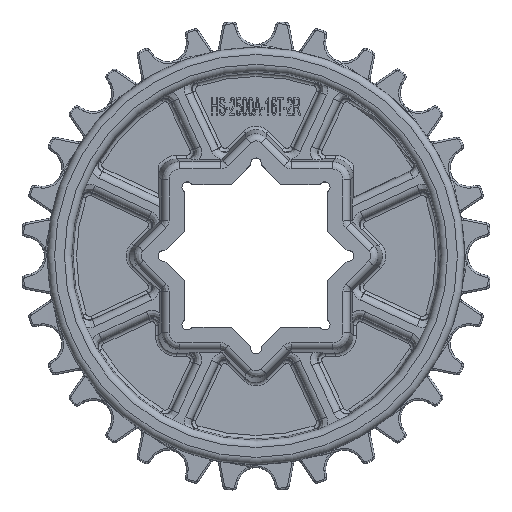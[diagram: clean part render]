
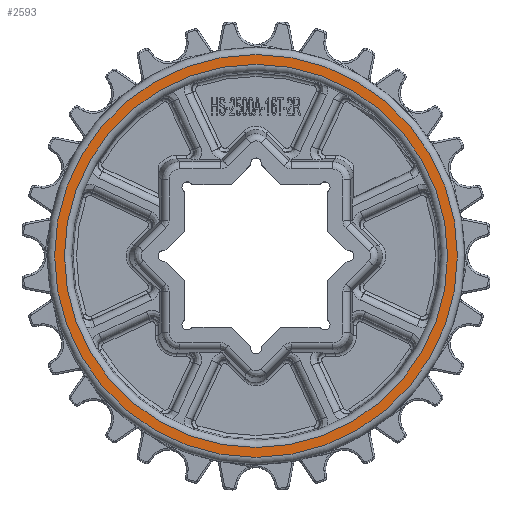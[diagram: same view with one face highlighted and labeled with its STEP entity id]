
A CAD part, top view. The second image highlights one B-rep face of the part: STEP entity #2593.
In plain terms, the highlighted planar face has unit normal (0, 0, 1).
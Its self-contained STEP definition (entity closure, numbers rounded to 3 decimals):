
#801=PLANE('',#26611);
#1088=FACE_BOUND('',#6361,.T.);
#1089=FACE_BOUND('',#6362,.T.);
#2593=ADVANCED_FACE('',(#1088,#1089),#801,.T.);
#6361=EDGE_LOOP('',(#10542));
#6362=EDGE_LOOP('',(#10543));
#7959=CIRCLE('',#26609,56.6);
#7960=CIRCLE('',#26610,53.833);
#10542=ORIENTED_EDGE('',*,*,#20712,.T.);
#10543=ORIENTED_EDGE('',*,*,#20713,.T.);
#18253=VERTEX_POINT('',#40248);
#18254=VERTEX_POINT('',#40250);
#20712=EDGE_CURVE('',#18253,#18253,#7959,.T.);
#20713=EDGE_CURVE('',#18254,#18254,#7960,.T.);
#26609=AXIS2_PLACEMENT_3D('',#40247,#30087,#30088);
#26610=AXIS2_PLACEMENT_3D('',#40249,#30089,#30090);
#26611=AXIS2_PLACEMENT_3D('',#40251,#30091,#30092);
#30087=DIRECTION('',(0.,0.,1.));
#30088=DIRECTION('',(1.,0.,0.));
#30089=DIRECTION('',(0.,0.,-1.));
#30090=DIRECTION('',(1.,0.,0.));
#30091=DIRECTION('',(0.,0.,1.));
#30092=DIRECTION('',(0.809,0.588,0.));
#40247=CARTESIAN_POINT('',(1400.,0.,10.));
#40248=CARTESIAN_POINT('',(1456.6,0.,10.));
#40249=CARTESIAN_POINT('',(1400.,0.,10.));
#40250=CARTESIAN_POINT('',(1453.833,0.,10.));
#40251=CARTESIAN_POINT('',(1449.736,-33.541,10.));
